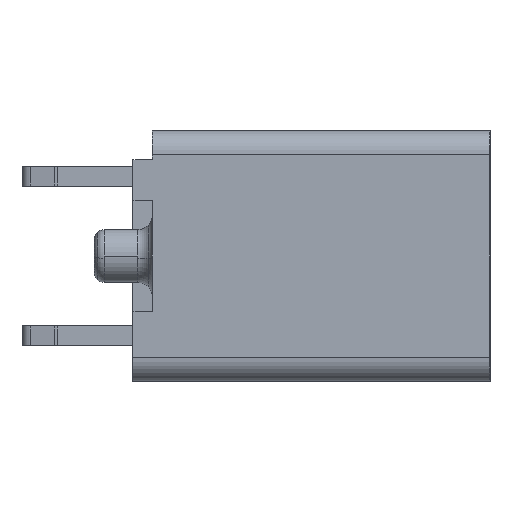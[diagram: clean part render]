
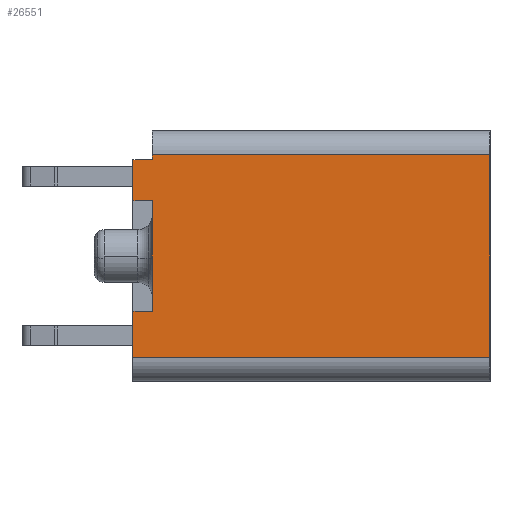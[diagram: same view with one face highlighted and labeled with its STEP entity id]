
A CAD part, left-side view. The second image highlights one B-rep face of the part: STEP entity #26551.
In plain terms, the highlighted planar face has unit normal (-1, 0, 0).
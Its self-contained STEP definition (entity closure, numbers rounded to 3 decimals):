
#42=DIRECTION('',(0.,0.,-1.));
#43=VECTOR('',#42,0.1);
#44=CARTESIAN_POINT('',(-12.7,-10.4,2.1));
#45=LINE('',#44,#43);
#46=DIRECTION('',(0.,0.,-1.));
#47=VECTOR('',#46,2.3);
#48=CARTESIAN_POINT('',(-12.7,-10.4,1.15));
#49=LINE('',#48,#47);
#859=DIRECTION('',(0.,-1.,0.));
#860=VECTOR('',#859,7.4);
#861=CARTESIAN_POINT('',(-12.7,-10.,-2.1));
#862=LINE('',#861,#860);
#867=DIRECTION('',(0.,0.,-1.));
#868=VECTOR('',#867,4.2);
#869=CARTESIAN_POINT('',(-12.7,-17.4,2.1));
#870=LINE('',#869,#868);
#871=DIRECTION('',(0.,-1.,0.));
#872=VECTOR('',#871,0.4);
#873=CARTESIAN_POINT('',(-12.7,-10.,-1.15));
#874=LINE('',#873,#872);
#875=DIRECTION('',(0.,-1.,0.));
#876=VECTOR('',#875,0.4);
#877=CARTESIAN_POINT('',(-12.7,-10.,2.));
#878=LINE('',#877,#876);
#883=DIRECTION('',(0.,1.,0.));
#884=VECTOR('',#883,7.);
#885=CARTESIAN_POINT('',(-12.7,-17.4,2.1));
#886=LINE('',#885,#884);
#18765=DIRECTION('',(0.,0.,-1.));
#18766=VECTOR('',#18765,0.95);
#18767=CARTESIAN_POINT('',(-12.7,-10.,-1.15));
#18768=LINE('',#18767,#18766);
#18802=DIRECTION('',(0.,-1.,0.));
#18803=VECTOR('',#18802,0.4);
#18804=CARTESIAN_POINT('',(-12.7,-10.,1.15));
#18805=LINE('',#18804,#18803);
#18830=DIRECTION('',(0.,0.,-1.));
#18831=VECTOR('',#18830,0.85);
#18832=CARTESIAN_POINT('',(-12.7,-10.,2.));
#18833=LINE('',#18832,#18831);
#20109=CARTESIAN_POINT('',(-12.7,-10.4,2.1));
#20110=VERTEX_POINT('',#20109);
#20111=CARTESIAN_POINT('',(-12.7,-10.4,2.));
#20112=VERTEX_POINT('',#20111);
#20117=CARTESIAN_POINT('',(-12.7,-10.4,1.15));
#20118=VERTEX_POINT('',#20117);
#20119=CARTESIAN_POINT('',(-12.7,-10.4,-1.15));
#20120=VERTEX_POINT('',#20119);
#20562=CARTESIAN_POINT('',(-12.7,-10.,-2.1));
#20563=CARTESIAN_POINT('',(-12.7,-17.4,-2.1));
#20564=VERTEX_POINT('',#20562);
#20565=VERTEX_POINT('',#20563);
#20566=CARTESIAN_POINT('',(-12.7,-17.4,2.1));
#20567=VERTEX_POINT('',#20566);
#20568=CARTESIAN_POINT('',(-12.7,-10.,-1.15));
#20569=VERTEX_POINT('',#20568);
#20570=CARTESIAN_POINT('',(-12.7,-10.,1.15));
#20571=VERTEX_POINT('',#20570);
#20572=CARTESIAN_POINT('',(-12.7,-10.,2.));
#20573=VERTEX_POINT('',#20572);
#26527=CARTESIAN_POINT('',(-12.7,-10.,2.6));
#26528=DIRECTION('',(-1.,0.,0.));
#26529=DIRECTION('',(0.,0.,-1.));
#26530=AXIS2_PLACEMENT_3D('',#26527,#26528,#26529);
#26531=PLANE('',#26530);
#26533=ORIENTED_EDGE('',*,*,#26532,.F.);
#26535=ORIENTED_EDGE('',*,*,#26534,.T.);
#26536=ORIENTED_EDGE('',*,*,#26517,.F.);
#26538=ORIENTED_EDGE('',*,*,#26537,.F.);
#26540=ORIENTED_EDGE('',*,*,#26539,.T.);
#26541=ORIENTED_EDGE('',*,*,#25922,.F.);
#26543=ORIENTED_EDGE('',*,*,#26542,.F.);
#26545=ORIENTED_EDGE('',*,*,#26544,.F.);
#26547=ORIENTED_EDGE('',*,*,#26546,.T.);
#26548=ORIENTED_EDGE('',*,*,#25914,.F.);
#26549=EDGE_LOOP('',(#26533,#26535,#26536,#26538,#26540,#26541,#26543,#26545,
#26547,#26548));
#26550=FACE_OUTER_BOUND('',#26549,.F.);
#26551=ADVANCED_FACE('',(#26550),#26531,.T.);
#25914=EDGE_CURVE('',#20110,#20112,#45,.T.);
#25922=EDGE_CURVE('',#20118,#20120,#49,.T.);
#26517=EDGE_CURVE('',#20564,#20565,#862,.T.);
#26532=EDGE_CURVE('',#20567,#20110,#886,.T.);
#26534=EDGE_CURVE('',#20567,#20565,#870,.T.);
#26537=EDGE_CURVE('',#20569,#20564,#18768,.T.);
#26539=EDGE_CURVE('',#20569,#20120,#874,.T.);
#26542=EDGE_CURVE('',#20571,#20118,#18805,.T.);
#26544=EDGE_CURVE('',#20573,#20571,#18833,.T.);
#26546=EDGE_CURVE('',#20573,#20112,#878,.T.);
